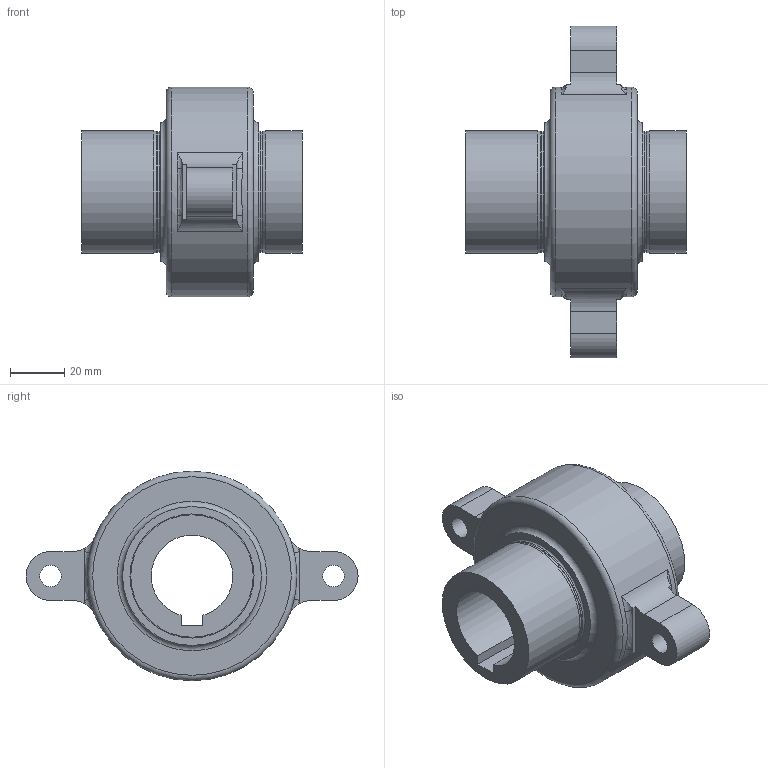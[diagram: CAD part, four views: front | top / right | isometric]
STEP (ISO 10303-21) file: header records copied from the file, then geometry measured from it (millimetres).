
FILE_DESCRIPTION((''),'2;1');
FILE_NAME('I:\Kurz\oerlikon_neu\Fliehkraftkupplung\682Modelle-Ausfuehrung_mit_Passfeder\Modell_Antriebsnabe_V1_Pos01.stp','2010-05-04T19:50:06',('Administrator'),(''),'Autodesk Inventor 11','Autodesk Inventor 11','');
FILE_SCHEMA(('AUTOMOTIVE_DESIGN { 1 0 10303 214 1 1 1 1 }'));
Length unit declared in the file: millimetre
Products named in the file (1): Pos1_Antriebsnabe
Bounding box: 81 x 122 x 77 mm (x, y, z)
Volume: 180856.8 mm3; surface area: 33536 mm2
Topology: 1 solids, 1 shells, 65 faces, 156 edges, 99 vertices
Faces by surface type: plane 29, torus 16, cylinder 14, bspline 4, cone 2
Full cylindrical faces by diameter (mm): 8 x2, 44.4 x2, 45 x2, 77 x1
Entity records: 3231 total; most frequent: CARTESIAN_POINT 1742, DIRECTION 318, ORIENTED_EDGE 272, EDGE_CURVE 136, AXIS2_PLACEMENT_3D 132, VERTEX_POINT 96, EDGE_LOOP 94, CIRCLE 70
